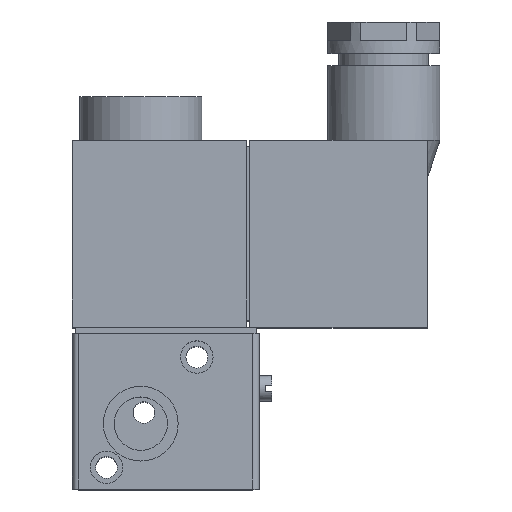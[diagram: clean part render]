
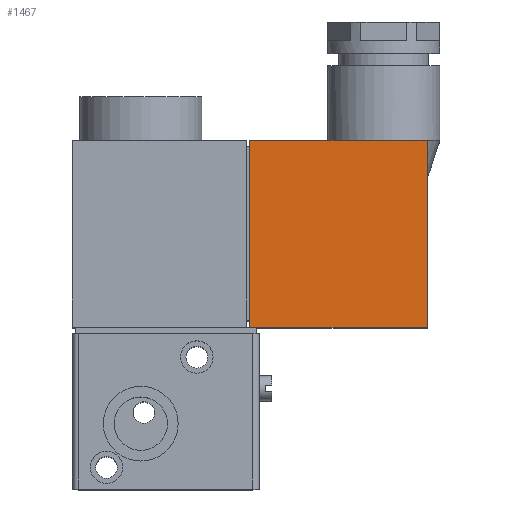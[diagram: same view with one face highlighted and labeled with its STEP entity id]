
A CAD part, top view. The second image highlights one B-rep face of the part: STEP entity #1467.
In plain terms, the highlighted planar face has unit normal (0, 0, 1).
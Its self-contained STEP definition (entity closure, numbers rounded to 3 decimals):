
#171=FACE_OUTER_BOUND('',#284,.T.);
#284=EDGE_LOOP('',(#1226,#1227,#1228,#1229));
#370=LINE('',#2444,#491);
#400=LINE('',#2508,#521);
#402=LINE('',#2514,#523);
#403=LINE('',#2516,#524);
#491=VECTOR('',#2002,1000.);
#521=VECTOR('',#2056,1000.);
#523=VECTOR('',#2064,1000.);
#524=VECTOR('',#2067,1000.);
#700=VERTEX_POINT('',#2441);
#701=VERTEX_POINT('',#2443);
#721=VERTEX_POINT('',#2502);
#723=VERTEX_POINT('',#2506);
#864=EDGE_CURVE('',#700,#701,#370,.T.);
#895=EDGE_CURVE('',#721,#723,#400,.T.);
#899=EDGE_CURVE('',#700,#721,#402,.T.);
#900=EDGE_CURVE('',#701,#723,#403,.T.);
#1226=ORIENTED_EDGE('',*,*,#895,.T.);
#1227=ORIENTED_EDGE('',*,*,#900,.F.);
#1228=ORIENTED_EDGE('',*,*,#864,.F.);
#1229=ORIENTED_EDGE('',*,*,#899,.T.);
#1383=PLANE('',#1682);
#1467=ADVANCED_FACE('',(#171),#1383,.F.);
#1682=AXIS2_PLACEMENT_3D('',#2515,#2065,#2066);
#2002=DIRECTION('',(0.,-1.,0.));
#2056=DIRECTION('',(0.,-1.,0.));
#2064=DIRECTION('',(-1.,0.,0.));
#2065=DIRECTION('center_axis',(0.,0.,-1.));
#2066=DIRECTION('ref_axis',(-1.,0.,0.));
#2067=DIRECTION('',(-1.,0.,0.));
#2441=CARTESIAN_POINT('',(57.,30.,22.));
#2443=CARTESIAN_POINT('',(57.,0.,22.));
#2444=CARTESIAN_POINT('',(57.,30.,22.));
#2502=CARTESIAN_POINT('',(28.5,30.,22.));
#2506=CARTESIAN_POINT('',(28.5,0.,22.));
#2508=CARTESIAN_POINT('',(28.5,30.,22.));
#2514=CARTESIAN_POINT('',(57.,30.,22.));
#2515=CARTESIAN_POINT('Origin',(57.,30.,22.));
#2516=CARTESIAN_POINT('',(57.,0.,22.));
